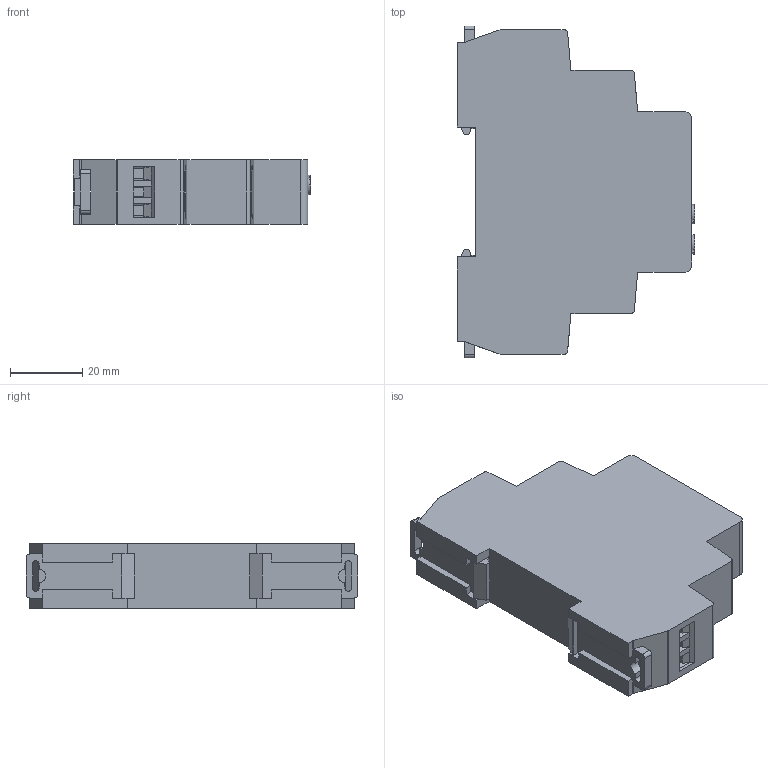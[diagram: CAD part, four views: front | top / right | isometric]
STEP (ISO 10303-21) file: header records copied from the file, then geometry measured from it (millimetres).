
FILE_DESCRIPTION (( 'STEP AP203' ), '1' );
FILE_NAME ('Ðåëå âðåìåíè RT-ZS RT-ZT RT-ZP.STEP', '2021-11-25T20:40:55', ( '' ), ( '' ), 'SwSTEP 2.0', 'SolidWorks 2017', '' );
FILE_SCHEMA (( 'CONFIG_CONTROL_DESIGN' ));
Length unit declared in the file: millimetre
Products named in the file (1): Ðåëå âðåìåíè RT-ZS RT-ZT RT-ZP
Bounding box: 65.8 x 92 x 18 mm (x, y, z)
Volume: 79897.9 mm3; surface area: 18215.4 mm2
Topology: 7 solids, 7 shells, 371 faces, 973 edges, 638 vertices
Faces by surface type: plane 267, cylinder 90, torus 12, sphere 2
Entity records: 11380 total; most frequent: CARTESIAN_POINT 2013, ORIENTED_EDGE 1938, DIRECTION 1897, EDGE_CURVE 969, VECTOR 761, LINE 761, VERTEX_POINT 636, AXIS2_PLACEMENT_3D 568
